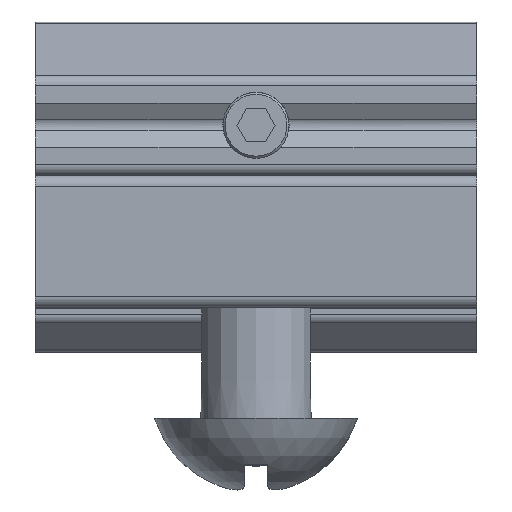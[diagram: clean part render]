
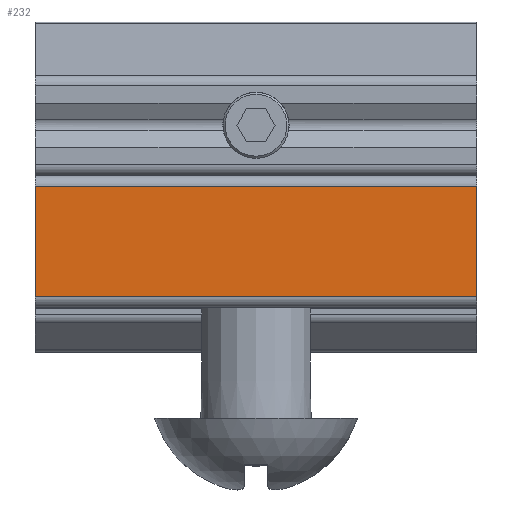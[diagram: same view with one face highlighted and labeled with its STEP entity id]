
A CAD part, top view. The second image highlights one B-rep face of the part: STEP entity #232.
In plain terms, the highlighted planar face has unit normal (0, 0, 1) as drawn and (0, 1, 0) by its records, which use the part's own axes.
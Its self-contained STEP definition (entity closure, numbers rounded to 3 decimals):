
#232=ADVANCED_FACE('',(#483),#484,.F.);
#483=FACE_OUTER_BOUND('',#796,.T.);
#484=PLANE('',#797);
#796=EDGE_LOOP('',(#1143,#1144,#1145,#1146));
#797=AXIS2_PLACEMENT_3D('',#1147,#1148,#1149);
#1143=ORIENTED_EDGE('',*,*,#1983,.T.);
#1144=ORIENTED_EDGE('',*,*,#1984,.F.);
#1145=ORIENTED_EDGE('',*,*,#1985,.F.);
#1146=ORIENTED_EDGE('',*,*,#1959,.T.);
#1147=CARTESIAN_POINT('',(5.5,23.8,20.0));
#1148=DIRECTION('',(0.0,-1.0,0.0));
#1149=DIRECTION('',(0.0,0.0,-1.0));
#1959=EDGE_CURVE('',#2312,#2310,#2313,.T.);
#1983=EDGE_CURVE('',#2310,#2346,#2347,.T.);
#1984=EDGE_CURVE('',#2348,#2346,#2349,.T.);
#1985=EDGE_CURVE('',#2312,#2348,#2350,.T.);
#2310=VERTEX_POINT('',#2817);
#2312=VERTEX_POINT('',#2819);
#2313=LINE('',#2820,#2821);
#2346=VERTEX_POINT('',#2870);
#2347=LINE('',#2871,#2872);
#2348=VERTEX_POINT('',#2873);
#2349=LINE('',#2874,#2875);
#2350=LINE('',#2876,#2877);
#2817=CARTESIAN_POINT('',(5.5,23.8,0.0));
#2819=CARTESIAN_POINT('',(5.5,23.8,20.0));
#2820=CARTESIAN_POINT('',(5.5,23.8,20.0));
#2821=VECTOR('',#3539,1.0);
#2870=CARTESIAN_POINT('',(0.5,23.8,0.0));
#2871=CARTESIAN_POINT('',(5.5,23.8,0.0));
#2872=VECTOR('',#3559,1.0);
#2873=CARTESIAN_POINT('',(0.5,23.8,20.0));
#2874=CARTESIAN_POINT('',(0.5,23.8,20.0));
#2875=VECTOR('',#3560,1.0);
#2876=CARTESIAN_POINT('',(5.5,23.8,20.0));
#2877=VECTOR('',#3561,1.0);
#3539=DIRECTION('',(0.0,0.0,-1.0));
#3559=DIRECTION('',(-1.0,0.0,0.0));
#3560=DIRECTION('',(0.0,0.0,-1.0));
#3561=DIRECTION('',(-1.0,0.0,0.0));
